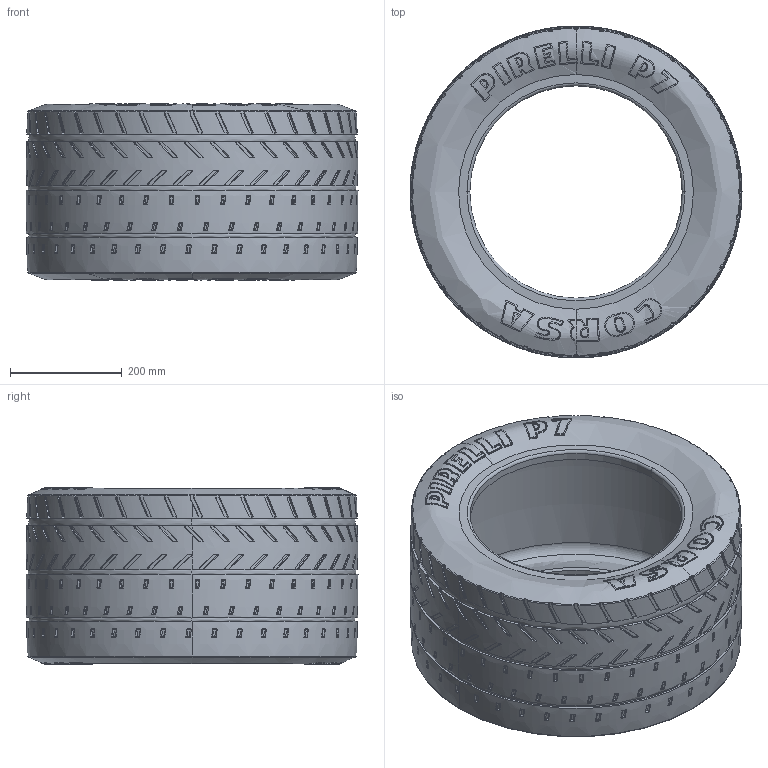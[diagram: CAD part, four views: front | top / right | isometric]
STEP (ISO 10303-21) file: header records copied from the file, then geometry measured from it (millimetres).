
FILE_DESCRIPTION (( 'STEP AP203' ), '1' );
FILE_NAME ('Fiat 131 abarth gr4 cromodora wheels rear tyre 305-35R15.STEP', '2025-03-08T20:01:49', ( '' ), ( '' ), 'SwSTEP 2.0', 'SolidWorks 2019', '' );
FILE_SCHEMA (( 'CONFIG_CONTROL_DESIGN' ));
Length unit declared in the file: millimetre
Products named in the file (1): Fiat 131 abarth gr4 cromodora wheels rear tyre 305-35R15
Bounding box: 595.4 x 595.4 x 317 mm (x, y, z)
Volume: 10777415 mm3; surface area: 1780607.2 mm2
Topology: 1 solids, 1 shells, 5652 faces, 14660 edges, 8650 vertices
Faces by surface type: bspline 1862, cylinder 1438, plane 1282, torus 830, sphere 240
Entity records: 237217 total; most frequent: CARTESIAN_POINT 123557, ORIENTED_EDGE 28040, DIRECTION 17568, EDGE_CURVE 14020, VERTEX_POINT 8570, B_SPLINE_CURVE_WITH_KNOTS 7608, AXIS2_PLACEMENT_3D 7365, EDGE_LOOP 5854
